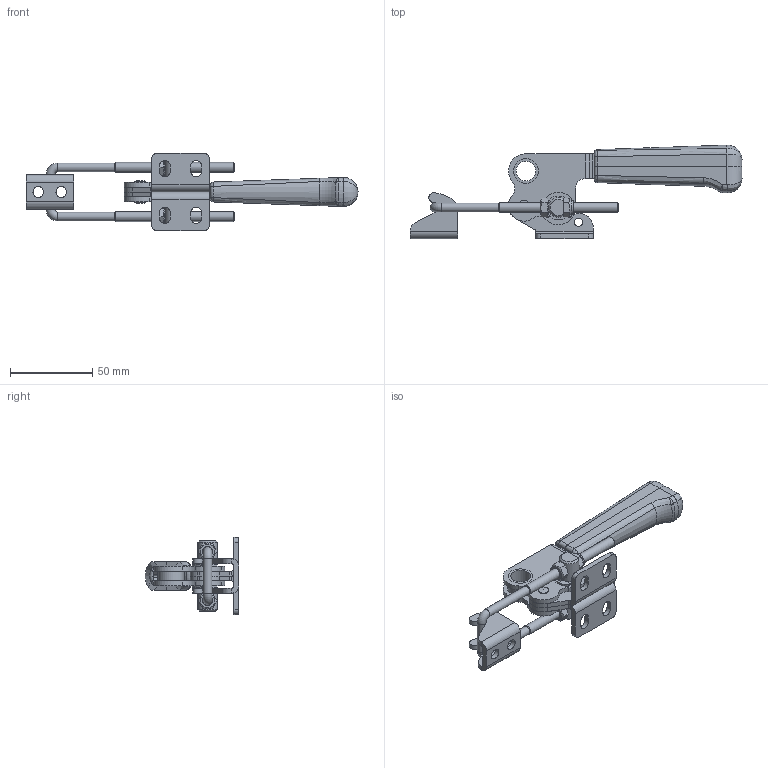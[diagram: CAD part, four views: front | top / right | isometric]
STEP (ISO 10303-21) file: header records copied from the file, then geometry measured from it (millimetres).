
FILE_DESCRIPTION(/* description */ (''),/* implementation_level */ '2;1');
FILE_NAME(/* name */ '/Users/eric/Desktop/Abco 1423 Closed:Fermée.stp',/* time_stamp */ '2014-08-15T18:14:18+10:00',/* author */ (''),/* organization */ (''),/* preprocessor_version */ 'ST-DEVELOPER v14.6',/* originating_system */ '',/* authorisation */ '');
FILE_SCHEMA (('AUTOMOTIVE_DESIGN { 1 2 10303 214 1 1 1 1 }'));
Length unit declared in the file: centimetre
Products named in the file (1): 1234-K789
Bounding box: 202.09 x 56.96 x 47 mm (x, y, z)
Volume: 62916 mm3; surface area: 47321.7 mm2
Topology: 20 solids, 20 shells, 375 faces, 927 edges, 590 vertices
Faces by surface type: plane 154, cylinder 147, cone 38, bspline 24, torus 8, sphere 4
Full cylindrical faces by diameter (mm): 4.917 x4, 5 x2, 5.3 x3, 6 x9, 6.2 x2, 6.5 x2, 8 x3, 8.5 x2, 9 x2, 12 x5, 15 x8, 16 x2
Entity records: 11339 total; most frequent: CARTESIAN_POINT 2867, DIRECTION 1766, ORIENTED_EDGE 1662, EDGE_CURVE 831, AXIS2_PLACEMENT_3D 705, VERTEX_POINT 572, EDGE_LOOP 505, ADVANCED_FACE 375
